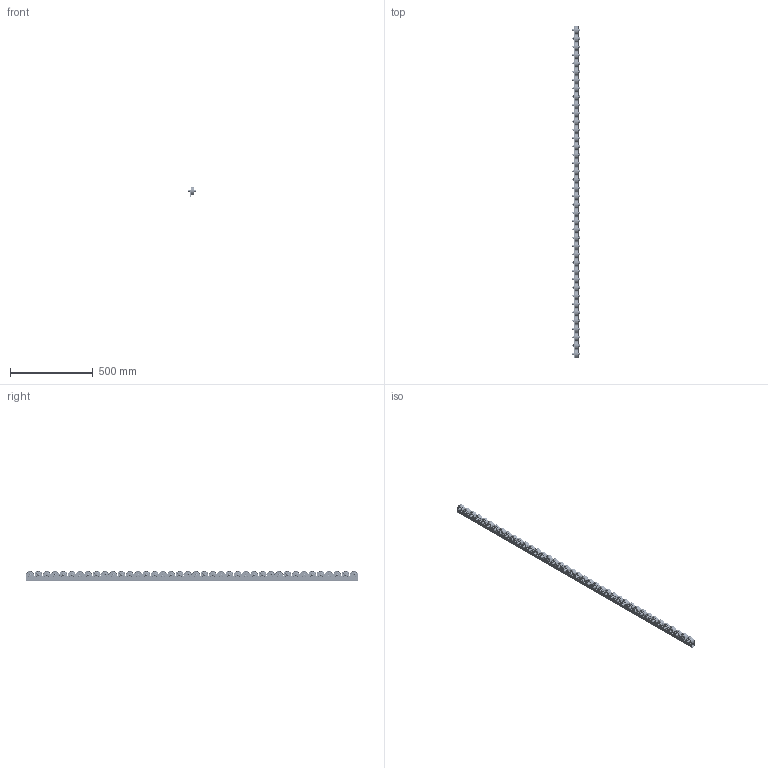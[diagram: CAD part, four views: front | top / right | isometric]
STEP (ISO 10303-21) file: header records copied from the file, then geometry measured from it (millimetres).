
FILE_DESCRIPTION( ( 'Unknown' ), '1' );
FILE_NAME( 'D:/Construktor/Listwy rolkowe 2015/Listwa T621/Listwa T621.stp', 'Unknown', ( 'Unknown' ), ( 'Unknown' ), 'PSStep 17.0.49', 'Unknown', ' ' );
FILE_SCHEMA( ( 'AUTOMOTIVE_DESIGN { 1 0 10303 214 1 1 1 1 }' ) );
Length unit declared in the file: millimetre
Products named in the file (9): Assem1; Ceownik T620; DIN_931_M8x35; DIN_931_M8x35-oa0; DIN_931_M8x35-oa1; Nut_DIN_980_M_M8_v10.50; 621 rolka; 621 rolka-oa2; 621 rolka-oa3
Assembly tree (121 placements, depth 2):
  Assem1
    Ceownik T620
    DIN_931_M8x35  x38
    DIN_931_M8x35-oa0
    DIN_931_M8x35-oa1
    Nut_DIN_980_M_M8_v10.50  x40
    621 rolka  x38
    621 rolka-oa2
    621 rolka-oa3
Bounding box: 45.3 x 2000 x 60.98 mm (x, y, z)
Volume: 1239223.3 mm3; surface area: 885321.3 mm2
Topology: 121 solids, 121 shells, 3412 faces, 7470 edges, 4780 vertices
Faces by surface type: plane 1210, cylinder 1042, cone 600, torus 560
Full cylindrical faces by diameter (mm): 6.466 x40, 6.647 x40, 6.697 x40, 8 x80, 8.2 x398, 8.3 x40, 8.4 x40, 11.63 x40, 12.5 x40, 12.6 x80, 29.5 x80, 43.6 x80, 48 x40
Entity records: 23886 total; most frequent: DIRECTION 3384, CARTESIAN_POINT 3169, ORIENTED_EDGE 2156, EDGE_LOOP 1902, AXIS2_PLACEMENT_3D 1657, EDGE_CURVE 1078, FACE_OUTER_BOUND 1061, VERTEX_POINT 1018
